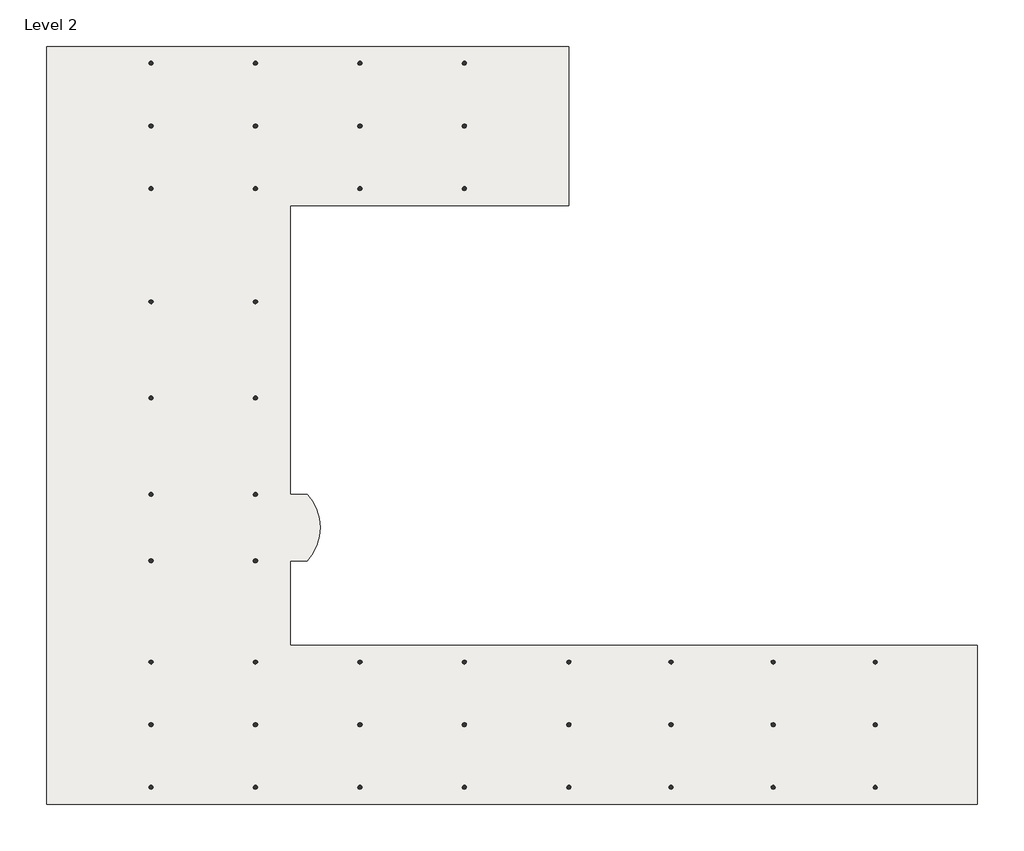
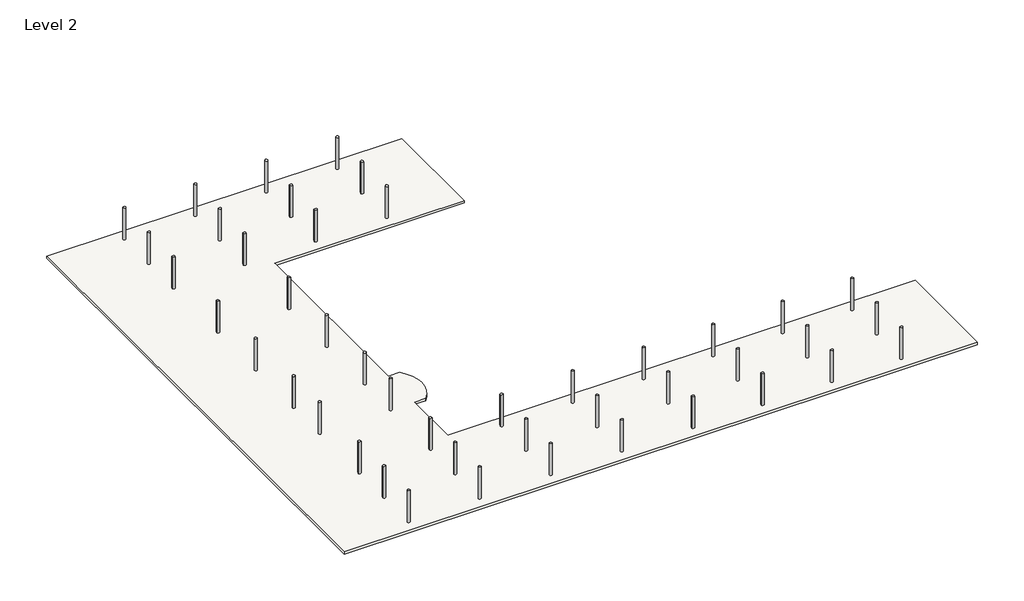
# One storey: 44 columns, 1 slab.
"""IFC4 building model written with IfcOpenShell, lengths in millimetres."""

from ifc_helpers import new_model, si_unit, point, frame, frame_2d, origin, place, context, project, spatial, polyline, circle_curve, trimmed, segment, composite_curve, outline, extrude, transform, mapped, element, save
from components import m_concrete_round_column_300mm_33275d7c

model = new_model("IFC4")

# Units and contexts
model_context = context("Model", 3, world=origin())
ifc_project = project(units=[si_unit("LENGTHUNIT", "METRE", prefix="MILLI")], contexts=[model_context])

# Site, building, storey
site = spatial("IfcSite", under=ifc_project)
building = spatial("IfcBuilding", under=site)
storey = spatial("IfcBuildingStorey", under=building, Name="Level 2", Elevation=3800.0)

# Columns
placement = place(None, origin())
m_concrete_round_column_300mm_shape = m_concrete_round_column_300mm_33275d7c(model_context)
element("IfcColumn", 1, ObjectType="M_Concrete-Round-Column : 300mm", at=placement, inside=storey, context=model_context, shape_type="MappedRepresentation", body=[
    mapped(m_concrete_round_column_300mm_shape, transform((-2539.0909489, 25116.7095931, 0.0), x_axis=(-1.0, 0.0, 0.0), y_axis=(0.0, -1.0, 0.0), z_axis=(0.0, 0.0, 1.0))),
])
element("IfcColumn", 2, ObjectType="M_Concrete-Round-Column : 300mm", at=placement, inside=storey, context=model_context, shape_type="MappedRepresentation", body=[
    mapped(m_concrete_round_column_300mm_shape, transform((-2539.0909489, 12506.7392059, 0.0), x_axis=(-1.0, 0.0, 0.0), y_axis=(0.0, -1.0, 0.0), z_axis=(0.0, 0.0, 1.0))),
])
element("IfcColumn", 3, ObjectType="M_Concrete-Round-Column : 300mm", at=placement, inside=storey, context=model_context, shape_type="MappedRepresentation", body=[
    mapped(m_concrete_round_column_300mm_shape, transform((-2539.0909489, 5598.6392059, 0.0), x_axis=(-1.0, 0.0, 0.0), y_axis=(0.0, -1.0, 0.0), z_axis=(0.0, 0.0, 1.0))),
])
element("IfcColumn", 4, ObjectType="M_Concrete-Round-Column : 300mm", at=placement, inside=storey, context=model_context, shape_type="MappedRepresentation", body=[
    mapped(m_concrete_round_column_300mm_shape, transform((-2539.0909489, -1309.4607941, 0.0), x_axis=(-1.0, 0.0, 0.0), y_axis=(0.0, -1.0, 0.0), z_axis=(0.0, 0.0, 1.0))),
])
element("IfcColumn", 5, ObjectType="M_Concrete-Round-Column : 300mm", at=placement, inside=storey, context=model_context, shape_type="MappedRepresentation", body=[
    mapped(m_concrete_round_column_300mm_shape, transform((-2539.0909489, -6063.8611817, 0.0), x_axis=(-1.0, 0.0, 0.0), y_axis=(0.0, -1.0, 0.0), z_axis=(0.0, 0.0, 1.0))),
])
element("IfcColumn", 6, ObjectType="M_Concrete-Round-Column : 300mm", at=placement, inside=storey, context=model_context, shape_type="MappedRepresentation", body=[
    mapped(m_concrete_round_column_300mm_shape, transform((-2539.0909489, -17821.5310875, 0.0), x_axis=(-1.0, 0.0, 0.0), y_axis=(0.0, -1.0, 0.0), z_axis=(0.0, 0.0, 1.0))),
])
element("IfcColumn", 7, ObjectType="M_Concrete-Round-Column : 300mm", at=placement, inside=storey, context=model_context, shape_type="MappedRepresentation", body=[
    mapped(m_concrete_round_column_300mm_shape, transform((-2539.0909489, 29618.5799804, 0.0), x_axis=(-1.0, 0.0, 0.0), y_axis=(0.0, -1.0, 0.0), z_axis=(0.0, 0.0, 1.0))),
])
element("IfcColumn", 8, ObjectType="M_Concrete-Round-Column : 300mm", at=placement, inside=storey, context=model_context, shape_type="MappedRepresentation", body=[
    mapped(m_concrete_round_column_300mm_shape, transform((-2539.0909489, 20614.8392059, 0.0), x_axis=(-1.0, 0.0, 0.0), y_axis=(0.0, -1.0, 0.0), z_axis=(0.0, 0.0, 1.0))),
])
element("IfcColumn", 9, ObjectType="M_Concrete-Round-Column : 300mm", at=placement, inside=storey, context=model_context, shape_type="MappedRepresentation", body=[
    mapped(m_concrete_round_column_300mm_shape, transform((-2539.0909489, -13332.3615692, 0.0), x_axis=(-1.0, 0.0, 0.0), y_axis=(0.0, -1.0, 0.0), z_axis=(0.0, 0.0, 1.0))),
])
element("IfcColumn", 10, ObjectType="M_Concrete-Round-Column : 300mm", at=placement, inside=storey, context=model_context, shape_type="MappedRepresentation", body=[
    mapped(m_concrete_round_column_300mm_shape, transform((-2539.0909489, -22310.7006057, 0.0), x_axis=(-1.0, 0.0, 0.0), y_axis=(0.0, -1.0, 0.0), z_axis=(0.0, 0.0, 1.0))),
])
element("IfcColumn", 11, ObjectType="M_Concrete-Round-Column : 300mm", at=placement, inside=storey, context=model_context, shape_type="MappedRepresentation", body=[
    mapped(m_concrete_round_column_300mm_shape, transform((4948.6567657, 25116.7095931, 0.0), x_axis=(-1.0, 0.0, 0.0), y_axis=(0.0, -1.0, 0.0), z_axis=(0.0, 0.0, 1.0))),
])
element("IfcColumn", 12, ObjectType="M_Concrete-Round-Column : 300mm", at=placement, inside=storey, context=model_context, shape_type="MappedRepresentation", body=[
    mapped(m_concrete_round_column_300mm_shape, transform((4948.6567657, 12506.7392059, 0.0), x_axis=(-1.0, 0.0, 0.0), y_axis=(0.0, -1.0, 0.0), z_axis=(0.0, 0.0, 1.0))),
])
element("IfcColumn", 13, ObjectType="M_Concrete-Round-Column : 300mm", at=placement, inside=storey, context=model_context, shape_type="MappedRepresentation", body=[
    mapped(m_concrete_round_column_300mm_shape, transform((4948.6567657, 5598.6392059, 0.0), x_axis=(-1.0, 0.0, 0.0), y_axis=(0.0, -1.0, 0.0), z_axis=(0.0, 0.0, 1.0))),
])
element("IfcColumn", 14, ObjectType="M_Concrete-Round-Column : 300mm", at=placement, inside=storey, context=model_context, shape_type="MappedRepresentation", body=[
    mapped(m_concrete_round_column_300mm_shape, transform((4948.6567657, -1309.4607941, 0.0), x_axis=(-1.0, 0.0, 0.0), y_axis=(0.0, -1.0, 0.0), z_axis=(0.0, 0.0, 1.0))),
])
element("IfcColumn", 15, ObjectType="M_Concrete-Round-Column : 300mm", at=placement, inside=storey, context=model_context, shape_type="MappedRepresentation", body=[
    mapped(m_concrete_round_column_300mm_shape, transform((4948.6567657, -6063.8611817, 0.0), x_axis=(-1.0, 0.0, 0.0), y_axis=(0.0, -1.0, 0.0), z_axis=(0.0, 0.0, 1.0))),
])
element("IfcColumn", 16, ObjectType="M_Concrete-Round-Column : 300mm", at=placement, inside=storey, context=model_context, shape_type="MappedRepresentation", body=[
    mapped(m_concrete_round_column_300mm_shape, transform((4948.6567657, -17821.5310875, 0.0), x_axis=(-1.0, 0.0, 0.0), y_axis=(0.0, -1.0, 0.0), z_axis=(0.0, 0.0, 1.0))),
])
element("IfcColumn", 17, ObjectType="M_Concrete-Round-Column : 300mm", at=placement, inside=storey, context=model_context, shape_type="MappedRepresentation", body=[
    mapped(m_concrete_round_column_300mm_shape, transform((4948.6567657, 29618.5799804, 0.0), x_axis=(-1.0, 0.0, 0.0), y_axis=(0.0, -1.0, 0.0), z_axis=(0.0, 0.0, 1.0))),
])
element("IfcColumn", 18, ObjectType="M_Concrete-Round-Column : 300mm", at=placement, inside=storey, context=model_context, shape_type="MappedRepresentation", body=[
    mapped(m_concrete_round_column_300mm_shape, transform((4948.6567657, 20614.8392059, 0.0), x_axis=(-1.0, 0.0, 0.0), y_axis=(0.0, -1.0, 0.0), z_axis=(0.0, 0.0, 1.0))),
])
element("IfcColumn", 19, ObjectType="M_Concrete-Round-Column : 300mm", at=placement, inside=storey, context=model_context, shape_type="MappedRepresentation", body=[
    mapped(m_concrete_round_column_300mm_shape, transform((4948.6567657, -13332.3615692, 0.0), x_axis=(-1.0, 0.0, 0.0), y_axis=(0.0, -1.0, 0.0), z_axis=(0.0, 0.0, 1.0))),
])
element("IfcColumn", 20, ObjectType="M_Concrete-Round-Column : 300mm", at=placement, inside=storey, context=model_context, shape_type="MappedRepresentation", body=[
    mapped(m_concrete_round_column_300mm_shape, transform((4948.6567657, -22310.7006057, 0.0), x_axis=(-1.0, 0.0, 0.0), y_axis=(0.0, -1.0, 0.0), z_axis=(0.0, 0.0, 1.0))),
])
element("IfcColumn", 21, ObjectType="M_Concrete-Round-Column : 300mm", at=placement, inside=storey, context=model_context, shape_type="MappedRepresentation", body=[
    mapped(m_concrete_round_column_300mm_shape, transform((12436.4044804, 25116.7095931, 0.0), x_axis=(-1.0, 0.0, 0.0), y_axis=(0.0, -1.0, 0.0), z_axis=(0.0, 0.0, 1.0))),
])
element("IfcColumn", 22, ObjectType="M_Concrete-Round-Column : 300mm", at=placement, inside=storey, context=model_context, shape_type="MappedRepresentation", body=[
    mapped(m_concrete_round_column_300mm_shape, transform((12436.4044804, -17821.5310875, 0.0), x_axis=(-1.0, 0.0, 0.0), y_axis=(0.0, -1.0, 0.0), z_axis=(0.0, 0.0, 1.0))),
])
element("IfcColumn", 23, ObjectType="M_Concrete-Round-Column : 300mm", at=placement, inside=storey, context=model_context, shape_type="MappedRepresentation", body=[
    mapped(m_concrete_round_column_300mm_shape, transform((12436.4044804, 29618.5799804, 0.0), x_axis=(-1.0, 0.0, 0.0), y_axis=(0.0, -1.0, 0.0), z_axis=(0.0, 0.0, 1.0))),
])
element("IfcColumn", 24, ObjectType="M_Concrete-Round-Column : 300mm", at=placement, inside=storey, context=model_context, shape_type="MappedRepresentation", body=[
    mapped(m_concrete_round_column_300mm_shape, transform((12436.4044804, 20614.8392059, 0.0), x_axis=(-1.0, 0.0, 0.0), y_axis=(0.0, -1.0, 0.0), z_axis=(0.0, 0.0, 1.0))),
])
element("IfcColumn", 25, ObjectType="M_Concrete-Round-Column : 300mm", at=placement, inside=storey, context=model_context, shape_type="MappedRepresentation", body=[
    mapped(m_concrete_round_column_300mm_shape, transform((12436.4044804, -13332.3615692, 0.0), x_axis=(-1.0, 0.0, 0.0), y_axis=(0.0, -1.0, 0.0), z_axis=(0.0, 0.0, 1.0))),
])
element("IfcColumn", 26, ObjectType="M_Concrete-Round-Column : 300mm", at=placement, inside=storey, context=model_context, shape_type="MappedRepresentation", body=[
    mapped(m_concrete_round_column_300mm_shape, transform((12436.4044804, -22310.7006057, 0.0), x_axis=(-1.0, 0.0, 0.0), y_axis=(0.0, -1.0, 0.0), z_axis=(0.0, 0.0, 1.0))),
])
element("IfcColumn", 27, ObjectType="M_Concrete-Round-Column : 300mm", at=placement, inside=storey, context=model_context, shape_type="MappedRepresentation", body=[
    mapped(m_concrete_round_column_300mm_shape, transform((19924.152195, 25116.7095931, 0.0), x_axis=(-1.0, 0.0, 0.0), y_axis=(0.0, -1.0, 0.0), z_axis=(0.0, 0.0, 1.0))),
])
element("IfcColumn", 28, ObjectType="M_Concrete-Round-Column : 300mm", at=placement, inside=storey, context=model_context, shape_type="MappedRepresentation", body=[
    mapped(m_concrete_round_column_300mm_shape, transform((19924.152195, -17821.5310875, 0.0), x_axis=(-1.0, 0.0, 0.0), y_axis=(0.0, -1.0, 0.0), z_axis=(0.0, 0.0, 1.0))),
])
element("IfcColumn", 29, ObjectType="M_Concrete-Round-Column : 300mm", at=placement, inside=storey, context=model_context, shape_type="MappedRepresentation", body=[
    mapped(m_concrete_round_column_300mm_shape, transform((19924.152195, 29618.5799804, 0.0), x_axis=(-1.0, 0.0, 0.0), y_axis=(0.0, -1.0, 0.0), z_axis=(0.0, 0.0, 1.0))),
])
element("IfcColumn", 30, ObjectType="M_Concrete-Round-Column : 300mm", at=placement, inside=storey, context=model_context, shape_type="MappedRepresentation", body=[
    mapped(m_concrete_round_column_300mm_shape, transform((19924.152195, 20614.8392059, 0.0), x_axis=(-1.0, 0.0, 0.0), y_axis=(0.0, -1.0, 0.0), z_axis=(0.0, 0.0, 1.0))),
])
element("IfcColumn", 31, ObjectType="M_Concrete-Round-Column : 300mm", at=placement, inside=storey, context=model_context, shape_type="MappedRepresentation", body=[
    mapped(m_concrete_round_column_300mm_shape, transform((19924.152195, -13332.3615692, 0.0), x_axis=(-1.0, 0.0, 0.0), y_axis=(0.0, -1.0, 0.0), z_axis=(0.0, 0.0, 1.0))),
])
element("IfcColumn", 32, ObjectType="M_Concrete-Round-Column : 300mm", at=placement, inside=storey, context=model_context, shape_type="MappedRepresentation", body=[
    mapped(m_concrete_round_column_300mm_shape, transform((19924.152195, -22310.7006057, 0.0), x_axis=(-1.0, 0.0, 0.0), y_axis=(0.0, -1.0, 0.0), z_axis=(0.0, 0.0, 1.0))),
])
element("IfcColumn", 33, ObjectType="M_Concrete-Round-Column : 300mm", at=placement, inside=storey, context=model_context, shape_type="MappedRepresentation", body=[
    mapped(m_concrete_round_column_300mm_shape, transform((27411.8999097, -17821.5310875, 0.0), x_axis=(-1.0, 0.0, 0.0), y_axis=(0.0, -1.0, 0.0), z_axis=(0.0, 0.0, 1.0))),
])
element("IfcColumn", 34, ObjectType="M_Concrete-Round-Column : 300mm", at=placement, inside=storey, context=model_context, shape_type="MappedRepresentation", body=[
    mapped(m_concrete_round_column_300mm_shape, transform((27411.8999097, -13332.3615692, 0.0), x_axis=(-1.0, 0.0, 0.0), y_axis=(0.0, -1.0, 0.0), z_axis=(0.0, 0.0, 1.0))),
])
element("IfcColumn", 35, ObjectType="M_Concrete-Round-Column : 300mm", at=placement, inside=storey, context=model_context, shape_type="MappedRepresentation", body=[
    mapped(m_concrete_round_column_300mm_shape, transform((27411.8999097, -22310.7006057, 0.0), x_axis=(-1.0, 0.0, 0.0), y_axis=(0.0, -1.0, 0.0), z_axis=(0.0, 0.0, 1.0))),
])
element("IfcColumn", 36, ObjectType="M_Concrete-Round-Column : 300mm", at=placement, inside=storey, context=model_context, shape_type="MappedRepresentation", body=[
    mapped(m_concrete_round_column_300mm_shape, transform((34733.7042668, -17821.5310875, 0.0), x_axis=(-1.0, 0.0, 0.0), y_axis=(0.0, -1.0, 0.0), z_axis=(0.0, 0.0, 1.0))),
])
element("IfcColumn", 37, ObjectType="M_Concrete-Round-Column : 300mm", at=placement, inside=storey, context=model_context, shape_type="MappedRepresentation", body=[
    mapped(m_concrete_round_column_300mm_shape, transform((34733.7042668, -13332.3615692, 0.0), x_axis=(-1.0, 0.0, 0.0), y_axis=(0.0, -1.0, 0.0), z_axis=(0.0, 0.0, 1.0))),
])
element("IfcColumn", 38, ObjectType="M_Concrete-Round-Column : 300mm", at=placement, inside=storey, context=model_context, shape_type="MappedRepresentation", body=[
    mapped(m_concrete_round_column_300mm_shape, transform((34733.7042668, -22310.7006057, 0.0), x_axis=(-1.0, 0.0, 0.0), y_axis=(0.0, -1.0, 0.0), z_axis=(0.0, 0.0, 1.0))),
])
element("IfcColumn", 39, ObjectType="M_Concrete-Round-Column : 300mm", at=placement, inside=storey, context=model_context, shape_type="MappedRepresentation", body=[
    mapped(m_concrete_round_column_300mm_shape, transform((42055.5086239, -17821.5310875, 0.0), x_axis=(-1.0, 0.0, 0.0), y_axis=(0.0, -1.0, 0.0), z_axis=(0.0, 0.0, 1.0))),
])
element("IfcColumn", 40, ObjectType="M_Concrete-Round-Column : 300mm", at=placement, inside=storey, context=model_context, shape_type="MappedRepresentation", body=[
    mapped(m_concrete_round_column_300mm_shape, transform((42055.5086239, -13332.3615692, 0.0), x_axis=(-1.0, 0.0, 0.0), y_axis=(0.0, -1.0, 0.0), z_axis=(0.0, 0.0, 1.0))),
])
element("IfcColumn", 41, ObjectType="M_Concrete-Round-Column : 300mm", at=placement, inside=storey, context=model_context, shape_type="MappedRepresentation", body=[
    mapped(m_concrete_round_column_300mm_shape, transform((42055.5086239, -22310.7006057, 0.0), x_axis=(-1.0, 0.0, 0.0), y_axis=(0.0, -1.0, 0.0), z_axis=(0.0, 0.0, 1.0))),
])
element("IfcColumn", 42, ObjectType="M_Concrete-Round-Column : 300mm", at=placement, inside=storey, context=model_context, shape_type="MappedRepresentation", body=[
    mapped(m_concrete_round_column_300mm_shape, transform((49377.3129811, -17821.5310875, 0.0), x_axis=(-1.0, 0.0, 0.0), y_axis=(0.0, -1.0, 0.0), z_axis=(0.0, 0.0, 1.0))),
])
element("IfcColumn", 43, ObjectType="M_Concrete-Round-Column : 300mm", at=placement, inside=storey, context=model_context, shape_type="MappedRepresentation", body=[
    mapped(m_concrete_round_column_300mm_shape, transform((49377.3129811, -13332.3615692, 0.0), x_axis=(-1.0, 0.0, 0.0), y_axis=(0.0, -1.0, 0.0), z_axis=(0.0, 0.0, 1.0))),
])
element("IfcColumn", 44, ObjectType="M_Concrete-Round-Column : 300mm", at=placement, inside=storey, context=model_context, shape_type="MappedRepresentation", body=[
    mapped(m_concrete_round_column_300mm_shape, transform((49377.3129811, -22310.7006057, 0.0), x_axis=(-1.0, 0.0, 0.0), y_axis=(0.0, -1.0, 0.0), z_axis=(0.0, 0.0, 1.0))),
])

# Slab
element("IfcSlab", 45, ObjectType="250mm Concrete", at=placement, inside=storey, context=model_context, shape_type="SweptSolid", body=[
    extrude(outline(composite_curve([segment(polyline([(27411.8999097, 30818.5799804), (27411.8999097, 19414.8392059), (7447.5010724, 19414.8392059), (7447.5010724, -1309.4607941), (8647.5010724, -1309.4607941)]), True, "CONTINUOUS"), segment(trimmed(circle_curve(frame_2d((6078.6649081, -3686.6609879)), 3500.0), [point((8647.5010724, -1309.4607941))], [point((8647.5010724, -6063.8611817))], False, "CARTESIAN"), True, "CONTINUOUS"), segment(polyline([(8647.5010724, -6063.8611817), (7447.5010724, -6063.8611817), (7447.5010724, -12132.3615692), (56699.1173382, -12132.3615692), (56699.1173382, -23510.7006057), (-10026.8386635, -23510.7006057), (-10026.8386635, 30818.5799804), (27411.8999097, 30818.5799804)]), True, "CONTINUOUS")], self_intersect=False)), frame((0.0, 0.0, 3550.0), z_axis=(0.0, 0.0, 1.0), x_axis=(1.0, 0.0, 0.0)), (0.0, 0.0, 1.0), 250.0),
])

save(model, "model.ifc")
